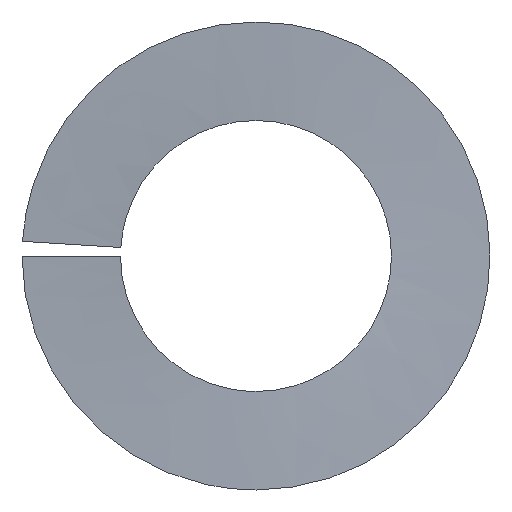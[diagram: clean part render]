
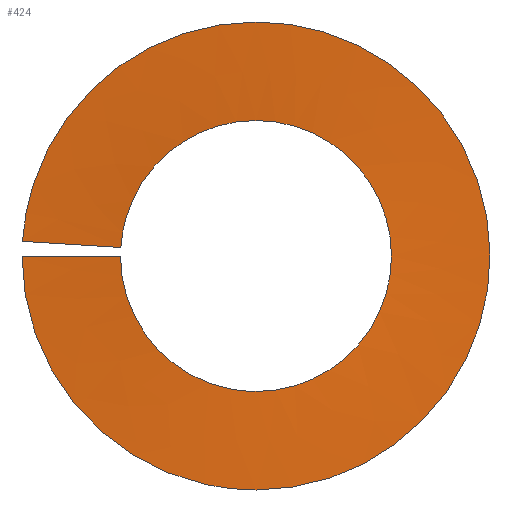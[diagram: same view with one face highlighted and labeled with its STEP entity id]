
A CAD part, front view. The second image highlights one B-rep face of the part: STEP entity #424.
In plain terms, the highlighted free-form (B-spline) face has degree [1, 2] with [2, 13] control points.
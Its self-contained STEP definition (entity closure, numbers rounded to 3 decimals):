
#73=CARTESIAN_POINT('',(-2.2,0.0,0.0));
#74=VERTEX_POINT('',#73);
#75=CARTESIAN_POINT('',(0.0,0.243,-2.2));
#76=VERTEX_POINT('',#75);
#77=CARTESIAN_POINT('',(-2.2,0.0,0.0));
#78=CARTESIAN_POINT('',(-2.2,0.08,-1.255));
#79=CARTESIAN_POINT('',(-1.12,0.16,-1.894));
#80=CARTESIAN_POINT('',(-0.602,0.198,-2.2));
#81=CARTESIAN_POINT('',(0.0,0.243,-2.2));
#89=(BOUNDED_CURVE()B_SPLINE_CURVE(2,(#77,#78,#79,#80,#81),.UNSPECIFIED.,.F.,.U.)B_SPLINE_CURVE_WITH_KNOTS((3,2,3),(0.0,0.167,0.252),.UNSPECIFIED.)CURVE()GEOMETRIC_REPRESENTATION_ITEM()RATIONAL_B_SPLINE_CURVE((1.0,0.869,1.0,0.932,0.934))REPRESENTATION_ITEM(''));
#90=EDGE_CURVE('',#74,#76,#89,.T.);
#92=CARTESIAN_POINT('',(0.,0.728,2.2));
#93=VERTEX_POINT('',#92);
#94=CARTESIAN_POINT('',(0.0,0.243,-2.2));
#95=CARTESIAN_POINT('',(0.565,0.284,-2.2));
#96=CARTESIAN_POINT('',(1.06,0.32,-1.928));
#97=CARTESIAN_POINT('',(2.159,0.4,-1.323));
#98=CARTESIAN_POINT('',(2.199,0.48,-0.069));
#99=CARTESIAN_POINT('',(2.238,0.56,1.185));
#100=CARTESIAN_POINT('',(1.179,0.64,1.858));
#101=CARTESIAN_POINT('',(0.639,0.681,2.2));
#102=CARTESIAN_POINT('',(0.,0.728,2.2));
#110=(BOUNDED_CURVE()B_SPLINE_CURVE(2,(#94,#95,#96,#97,#98,#99,#100,#101,#102),.UNSPECIFIED.,.F.,.U.)B_SPLINE_CURVE_WITH_KNOTS((3,2,2,2,3),(0.252,0.333,0.5,0.667,0.757),.UNSPECIFIED.)CURVE()GEOMETRIC_REPRESENTATION_ITEM()RATIONAL_B_SPLINE_CURVE((0.934,0.936,1.0,0.869,1.0,0.869,1.0,0.928,0.935))REPRESENTATION_ITEM(''));
#111=EDGE_CURVE('',#76,#93,#110,.T.);
#113=CARTESIAN_POINT('',(-2.196,0.96,0.138));
#114=VERTEX_POINT('',#113);
#115=CARTESIAN_POINT('',(0.,0.728,2.2));
#116=CARTESIAN_POINT('',(-0.528,0.766,2.2));
#117=CARTESIAN_POINT('',(-0.999,0.8,1.96));
#118=CARTESIAN_POINT('',(-2.117,0.88,1.391));
#119=CARTESIAN_POINT('',(-2.196,0.96,0.138));
#127=(BOUNDED_CURVE()B_SPLINE_CURVE(2,(#115,#116,#117,#118,#119),.UNSPECIFIED.,.F.,.U.)B_SPLINE_CURVE_WITH_KNOTS((3,2,3),(0.757,0.833,1.0),.UNSPECIFIED.)CURVE()GEOMETRIC_REPRESENTATION_ITEM()RATIONAL_B_SPLINE_CURVE((0.935,0.94,1.0,0.869,1.0))REPRESENTATION_ITEM(''));
#128=EDGE_CURVE('',#93,#114,#127,.T.);
#207=CARTESIAN_POINT('',(0.,0.243,-3.8));
#208=VERTEX_POINT('',#207);
#209=CARTESIAN_POINT('',(0.,0.728,3.8));
#210=VERTEX_POINT('',#209);
#211=CARTESIAN_POINT('',(0.,0.243,-3.8));
#212=CARTESIAN_POINT('',(0.976,0.284,-3.8));
#213=CARTESIAN_POINT('',(1.831,0.32,-3.33));
#214=CARTESIAN_POINT('',(3.73,0.4,-2.286));
#215=CARTESIAN_POINT('',(3.798,0.48,-0.119));
#216=CARTESIAN_POINT('',(3.866,0.56,2.047));
#217=CARTESIAN_POINT('',(2.036,0.64,3.208));
#218=CARTESIAN_POINT('',(1.104,0.681,3.8));
#219=CARTESIAN_POINT('',(0.,0.728,3.8));
#227=(BOUNDED_CURVE()B_SPLINE_CURVE(2,(#211,#212,#213,#214,#215,#216,#217,#218,#219),.UNSPECIFIED.,.F.,.U.)B_SPLINE_CURVE_WITH_KNOTS((3,2,2,2,3),(0.252,0.333,0.5,0.667,0.757),.UNSPECIFIED.)CURVE()GEOMETRIC_REPRESENTATION_ITEM()RATIONAL_B_SPLINE_CURVE((0.934,0.936,1.0,0.869,1.0,0.869,1.0,0.928,0.935))REPRESENTATION_ITEM(''));
#228=EDGE_CURVE('',#208,#210,#227,.T.);
#230=CARTESIAN_POINT('',(-3.8,0.0,0.0));
#231=VERTEX_POINT('',#230);
#232=CARTESIAN_POINT('',(-3.8,0.0,0.0));
#233=CARTESIAN_POINT('',(-3.8,0.08,-2.167));
#234=CARTESIAN_POINT('',(-1.934,0.16,-3.271));
#235=CARTESIAN_POINT('',(-1.04,0.198,-3.8));
#236=CARTESIAN_POINT('',(0.,0.243,-3.8));
#244=(BOUNDED_CURVE()B_SPLINE_CURVE(2,(#232,#233,#234,#235,#236),.UNSPECIFIED.,.F.,.U.)B_SPLINE_CURVE_WITH_KNOTS((3,2,3),(0.0,0.167,0.252),.UNSPECIFIED.)CURVE()GEOMETRIC_REPRESENTATION_ITEM()RATIONAL_B_SPLINE_CURVE((1.0,0.869,1.0,0.932,0.934))REPRESENTATION_ITEM(''));
#245=EDGE_CURVE('',#231,#208,#244,.T.);
#310=CARTESIAN_POINT('',(-3.793,0.96,0.239));
#311=VERTEX_POINT('',#310);
#318=CARTESIAN_POINT('',(0.,0.728,3.8));
#319=CARTESIAN_POINT('',(-0.912,0.766,3.8));
#320=CARTESIAN_POINT('',(-1.725,0.8,3.386));
#321=CARTESIAN_POINT('',(-3.656,0.88,2.402));
#322=CARTESIAN_POINT('',(-3.793,0.96,0.239));
#330=(BOUNDED_CURVE()B_SPLINE_CURVE(2,(#318,#319,#320,#321,#322),.UNSPECIFIED.,.F.,.U.)B_SPLINE_CURVE_WITH_KNOTS((3,2,3),(0.757,0.833,1.0),.UNSPECIFIED.)CURVE()GEOMETRIC_REPRESENTATION_ITEM()RATIONAL_B_SPLINE_CURVE((0.935,0.94,1.0,0.869,1.0))REPRESENTATION_ITEM(''));
#331=EDGE_CURVE('',#210,#311,#330,.T.);
#342=CARTESIAN_POINT('',(-3.8,0.0,0.0));
#343=DIRECTION('',(1.0,0.0,0.0));
#344=VECTOR('',#343,1.6);
#345=LINE('',#342,#344);
#346=EDGE_CURVE('',#231,#74,#345,.T.);
#371=CARTESIAN_POINT('',(-3.793,0.96,0.239));
#372=DIRECTION('',(0.998,0.0,-0.063));
#373=VECTOR('',#372,1.6);
#374=LINE('',#371,#373);
#375=EDGE_CURVE('',#311,#114,#374,.T.);
#380=CARTESIAN_POINT('',(-3.8,0.0,0.0));
#381=CARTESIAN_POINT('',(-2.2,0.0,0.0));
#382=CARTESIAN_POINT('',(-3.8,0.08,-2.167));
#383=CARTESIAN_POINT('',(-2.2,0.08,-1.255));
#384=CARTESIAN_POINT('',(-1.934,0.16,-3.271));
#385=CARTESIAN_POINT('',(-1.12,0.16,-1.894));
#386=CARTESIAN_POINT('',(-0.069,0.24,-4.374));
#387=CARTESIAN_POINT('',(-0.04,0.24,-2.532));
#388=CARTESIAN_POINT('',(1.831,0.32,-3.33));
#389=CARTESIAN_POINT('',(1.06,0.32,-1.928));
#390=CARTESIAN_POINT('',(3.73,0.4,-2.286));
#391=CARTESIAN_POINT('',(2.159,0.4,-1.323));
#392=CARTESIAN_POINT('',(3.798,0.48,-0.119));
#393=CARTESIAN_POINT('',(2.199,0.48,-0.069));
#394=CARTESIAN_POINT('',(3.866,0.56,2.047));
#395=CARTESIAN_POINT('',(2.238,0.56,1.185));
#396=CARTESIAN_POINT('',(2.036,0.64,3.208));
#397=CARTESIAN_POINT('',(1.179,0.64,1.858));
#398=CARTESIAN_POINT('',(0.206,0.72,4.37));
#399=CARTESIAN_POINT('',(0.119,0.72,2.53));
#400=CARTESIAN_POINT('',(-1.725,0.8,3.386));
#401=CARTESIAN_POINT('',(-0.999,0.8,1.96));
#402=CARTESIAN_POINT('',(-3.656,0.88,2.402));
#403=CARTESIAN_POINT('',(-2.117,0.88,1.391));
#404=CARTESIAN_POINT('',(-3.793,0.96,0.239));
#405=CARTESIAN_POINT('',(-2.196,0.96,0.138));
#413=(BOUNDED_SURFACE()B_SPLINE_SURFACE(1,2,((#380,#382,#384,#386,#388,#390,#392,#394,#396,#398,#400,#402,#404),(#381,#383,#385,#387,#389,#391,#393,#395,#397,#399,#401,#403,#405)),.UNSPECIFIED.,.F.,.F.,.F.)B_SPLINE_SURFACE_WITH_KNOTS((2,2),(3,2,2,2,2,2,3),(0.0,1.0),(0.0,0.167,0.333,0.5,0.667,0.833,1.0),.UNSPECIFIED.)GEOMETRIC_REPRESENTATION_ITEM()RATIONAL_B_SPLINE_SURFACE(((1.0,0.869,1.0,0.869,1.0,0.869,1.0,0.869,1.0,0.869,1.0,0.869,1.0),(1.0,0.869,1.0,0.869,1.0,0.869,1.0,0.869,1.0,0.869,1.0,0.869,1.0)))REPRESENTATION_ITEM('')SURFACE());
#414=ORIENTED_EDGE('',*,*,#90,.F.);
#415=ORIENTED_EDGE('',*,*,#346,.F.);
#416=ORIENTED_EDGE('',*,*,#245,.T.);
#417=ORIENTED_EDGE('',*,*,#228,.T.);
#418=ORIENTED_EDGE('',*,*,#331,.T.);
#419=ORIENTED_EDGE('',*,*,#375,.T.);
#420=ORIENTED_EDGE('',*,*,#128,.F.);
#421=ORIENTED_EDGE('',*,*,#111,.F.);
#422=EDGE_LOOP('',(#414,#415,#416,#417,#418,#419,#420,#421));
#423=FACE_OUTER_BOUND('',#422,.T.);
#424=ADVANCED_FACE('',(#423),#413,.F.);
